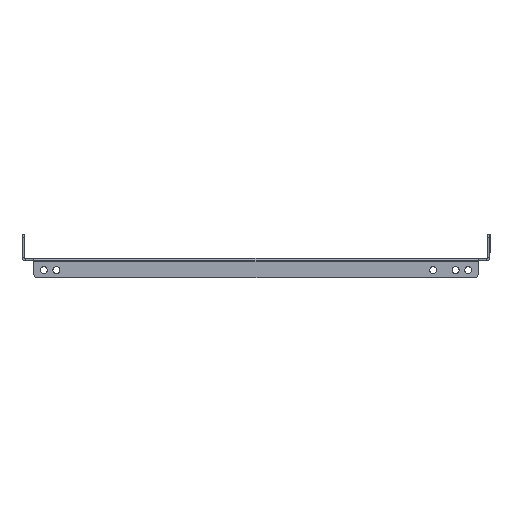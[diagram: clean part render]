
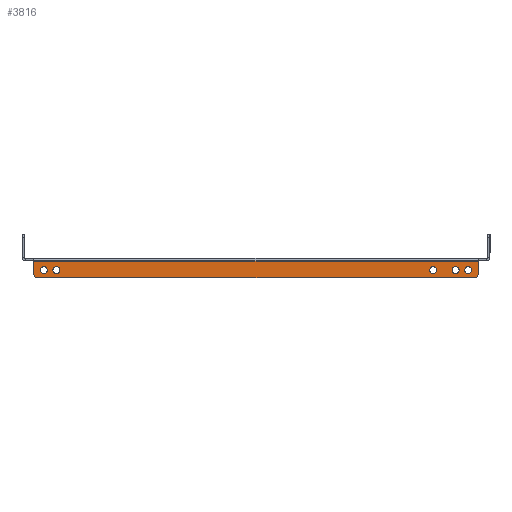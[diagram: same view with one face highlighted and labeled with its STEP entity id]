
A CAD part, left-side view. The second image highlights one B-rep face of the part: STEP entity #3816.
In plain terms, the highlighted planar face has unit normal (-1, 0, 0).
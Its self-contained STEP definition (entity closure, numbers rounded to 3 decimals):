
#5 = EDGE_CURVE ( 'NONE', #3567, #2444, #2221, .T. ) ;
#46 = AXIS2_PLACEMENT_3D ( 'NONE', #1285, #1673, #3073 ) ;
#64 = VERTEX_POINT ( 'NONE', #3699 ) ;
#90 = DIRECTION ( 'NONE',  ( 0., 0., 1. ) ) ;
#132 = VERTEX_POINT ( 'NONE', #1322 ) ;
#201 = EDGE_CURVE ( 'NONE', #1371, #554, #1958, .T. ) ;
#211 = ORIENTED_EDGE ( 'NONE', *, *, #3827, .F. ) ;
#219 = ORIENTED_EDGE ( 'NONE', *, *, #4158, .F. ) ;
#225 = EDGE_CURVE ( 'NONE', #3567, #3324, #3522, .T. ) ;
#230 = ORIENTED_EDGE ( 'NONE', *, *, #2777, .T. ) ;
#292 = FACE_BOUND ( 'NONE', #2271, .T. ) ;
#315 = FACE_BOUND ( 'NONE', #3948, .T. ) ;
#354 = DIRECTION ( 'NONE',  ( 0., 0., 1. ) ) ;
#357 = DIRECTION ( 'NONE',  ( 0., 0., -1. ) ) ;
#359 = ORIENTED_EDGE ( 'NONE', *, *, #3612, .F. ) ;
#380 = CARTESIAN_POINT ( 'NONE',  ( -550., 200., -6. ) ) ;
#382 = ORIENTED_EDGE ( 'NONE', *, *, #1362, .F. ) ;
#392 = CIRCLE ( 'NONE', #2623, 3. ) ;
#451 = CARTESIAN_POINT ( 'NONE',  ( -550., -200., -6. ) ) ;
#463 = VERTEX_POINT ( 'NONE', #1010 ) ;
#554 = VERTEX_POINT ( 'NONE', #451 ) ;
#556 = CARTESIAN_POINT ( 'NONE',  ( -550., -222.5, -14. ) ) ;
#576 = CARTESIAN_POINT ( 'NONE',  ( -550., -212.5, -13. ) ) ;
#590 = CIRCLE ( 'NONE', #1166, 3.5 ) ;
#598 = CARTESIAN_POINT ( 'NONE',  ( -550., 212.5, -6. ) ) ;
#602 = CARTESIAN_POINT ( 'NONE',  ( -550., 222.5, 0. ) ) ;
#616 = AXIS2_PLACEMENT_3D ( 'NONE', #602, #3095, #1381 ) ;
#634 = CARTESIAN_POINT ( 'NONE',  ( -550., 219.5, -14. ) ) ;
#686 = EDGE_CURVE ( 'NONE', #463, #3684, #4099, .T. ) ;
#687 = LINE ( 'NONE', #2104, #4427 ) ;
#696 = DIRECTION ( 'NONE',  ( 1., 0., 0. ) ) ;
#728 = DIRECTION ( 'NONE',  ( 0., 0., -1. ) ) ;
#776 = CARTESIAN_POINT ( 'NONE',  ( -550., -200., -9.5 ) ) ;
#841 = EDGE_CURVE ( 'NONE', #132, #3324, #687, .T. ) ;
#856 = ORIENTED_EDGE ( 'NONE', *, *, #225, .T. ) ;
#913 = CARTESIAN_POINT ( 'NONE',  ( -550., 219.5, -17. ) ) ;
#959 = DIRECTION ( 'NONE',  ( 0., 0., 1. ) ) ;
#966 = CIRCLE ( 'NONE', #1395, 3. ) ;
#973 = AXIS2_PLACEMENT_3D ( 'NONE', #3370, #2741, #1655 ) ;
#977 = AXIS2_PLACEMENT_3D ( 'NONE', #2365, #3803, #3406 ) ;
#978 = CARTESIAN_POINT ( 'NONE',  ( -550., -177.5, -13. ) ) ;
#988 = EDGE_CURVE ( 'NONE', #3067, #64, #3043, .T. ) ;
#998 = CARTESIAN_POINT ( 'NONE',  ( -550., 222.5, -17. ) ) ;
#1010 = CARTESIAN_POINT ( 'NONE',  ( -550., -219.5, -17. ) ) ;
#1116 = ORIENTED_EDGE ( 'NONE', *, *, #5, .F. ) ;
#1166 = AXIS2_PLACEMENT_3D ( 'NONE', #3866, #2124, #728 ) ;
#1177 = CIRCLE ( 'NONE', #3721, 3.5 ) ;
#1179 = ORIENTED_EDGE ( 'NONE', *, *, #2070, .T. ) ;
#1197 = ORIENTED_EDGE ( 'NONE', *, *, #686, .F. ) ;
#1236 = VECTOR ( 'NONE', #2313, 1000. ) ;
#1274 = CARTESIAN_POINT ( 'NONE',  ( -550., -177.5, -6. ) ) ;
#1285 = CARTESIAN_POINT ( 'NONE',  ( -550., 200., -9.5 ) ) ;
#1322 = CARTESIAN_POINT ( 'NONE',  ( -550., 222.5, -14. ) ) ;
#1336 = DIRECTION ( 'NONE',  ( 0., 0., -1. ) ) ;
#1358 = ORIENTED_EDGE ( 'NONE', *, *, #988, .F. ) ;
#1362 = EDGE_CURVE ( 'NONE', #2114, #4021, #590, .T. ) ;
#1371 = VERTEX_POINT ( 'NONE', #4277 ) ;
#1381 = DIRECTION ( 'NONE',  ( 0., 0., 1. ) ) ;
#1395 = AXIS2_PLACEMENT_3D ( 'NONE', #634, #3837, #90 ) ;
#1442 = ORIENTED_EDGE ( 'NONE', *, *, #1979, .T. ) ;
#1470 = DIRECTION ( 'NONE',  ( 0., 0., -1. ) ) ;
#1471 = CARTESIAN_POINT ( 'NONE',  ( -550., 212.5, -9.5 ) ) ;
#1495 = CARTESIAN_POINT ( 'NONE',  ( -550., -177.5, -9.5 ) ) ;
#1655 = DIRECTION ( 'NONE',  ( 0., 0., -1. ) ) ;
#1665 = VECTOR ( 'NONE', #1470, 1000. ) ;
#1673 = DIRECTION ( 'NONE',  ( -1., 0., 0. ) ) ;
#1682 = ORIENTED_EDGE ( 'NONE', *, *, #4203, .F. ) ;
#1741 = CARTESIAN_POINT ( 'NONE',  ( -550., -177.5, -9.5 ) ) ;
#1800 = CARTESIAN_POINT ( 'NONE',  ( -550., -222.5, -17. ) ) ;
#1958 = CIRCLE ( 'NONE', #3940, 3.5 ) ;
#1979 = EDGE_CURVE ( 'NONE', #463, #2444, #392, .T. ) ;
#1984 = CIRCLE ( 'NONE', #46, 3.5 ) ;
#2026 = VERTEX_POINT ( 'NONE', #1274 ) ;
#2053 = AXIS2_PLACEMENT_3D ( 'NONE', #3459, #2453, #354 ) ;
#2063 = CARTESIAN_POINT ( 'NONE',  ( -550., 200., -13. ) ) ;
#2070 = EDGE_CURVE ( 'NONE', #4161, #2026, #1177, .T. ) ;
#2104 = CARTESIAN_POINT ( 'NONE',  ( -550., 222.5, 0. ) ) ;
#2114 = VERTEX_POINT ( 'NONE', #3461 ) ;
#2124 = DIRECTION ( 'NONE',  ( -1., 0., 0. ) ) ;
#2138 = DIRECTION ( 'NONE',  ( -1., 0., 0. ) ) ;
#2145 = CARTESIAN_POINT ( 'NONE',  ( -550., 222.5, -0.6 ) ) ;
#2150 = CARTESIAN_POINT ( 'NONE',  ( -550., -222.5, -0.6 ) ) ;
#2204 = DIRECTION ( 'NONE',  ( 0., 0., -1. ) ) ;
#2215 = CIRCLE ( 'NONE', #977, 3.5 ) ;
#2219 = DIRECTION ( 'NONE',  ( -1., 0., 0. ) ) ;
#2221 = LINE ( 'NONE', #1800, #1665 ) ;
#2271 = EDGE_LOOP ( 'NONE', ( #219, #1682 ) ) ;
#2300 = DIRECTION ( 'NONE',  ( -1., 0., 0. ) ) ;
#2313 = DIRECTION ( 'NONE',  ( 0., 1., 0. ) ) ;
#2365 = CARTESIAN_POINT ( 'NONE',  ( -550., 200., -9.5 ) ) ;
#2370 = PLANE ( 'NONE',  #616 ) ;
#2406 = DIRECTION ( 'NONE',  ( 0., 0., 1. ) ) ;
#2444 = VERTEX_POINT ( 'NONE', #556 ) ;
#2448 = EDGE_LOOP ( 'NONE', ( #359, #3582 ) ) ;
#2453 = DIRECTION ( 'NONE',  ( -1., 0., 0. ) ) ;
#2475 = CARTESIAN_POINT ( 'NONE',  ( -550., -200., -9.5 ) ) ;
#2478 = EDGE_LOOP ( 'NONE', ( #1197, #1442, #1116, #856, #2526, #230 ) ) ;
#2526 = ORIENTED_EDGE ( 'NONE', *, *, #841, .F. ) ;
#2552 = VERTEX_POINT ( 'NONE', #2063 ) ;
#2596 = EDGE_LOOP ( 'NONE', ( #1358, #3729 ) ) ;
#2623 = AXIS2_PLACEMENT_3D ( 'NONE', #4337, #2300, #959 ) ;
#2705 = CIRCLE ( 'NONE', #2988, 3.5 ) ;
#2741 = DIRECTION ( 'NONE',  ( -1., 0., 0. ) ) ;
#2777 = EDGE_CURVE ( 'NONE', #132, #3684, #966, .T. ) ;
#2988 = AXIS2_PLACEMENT_3D ( 'NONE', #2475, #2138, #357 ) ;
#3043 = CIRCLE ( 'NONE', #4077, 3.5 ) ;
#3056 = CIRCLE ( 'NONE', #2053, 3.5 ) ;
#3058 = FACE_OUTER_BOUND ( 'NONE', #2478, .T. ) ;
#3067 = VERTEX_POINT ( 'NONE', #598 ) ;
#3073 = DIRECTION ( 'NONE',  ( 0., 0., 1. ) ) ;
#3095 = DIRECTION ( 'NONE',  ( -1., 0., 0. ) ) ;
#3194 = VECTOR ( 'NONE', #3614, 1000. ) ;
#3257 = DIRECTION ( 'NONE',  ( 0., 0., -1. ) ) ;
#3266 = DIRECTION ( 'NONE',  ( 1., 0., 0. ) ) ;
#3301 = EDGE_CURVE ( 'NONE', #64, #3067, #3056, .T. ) ;
#3321 = EDGE_CURVE ( 'NONE', #2026, #4161, #3959, .T. ) ;
#3324 = VERTEX_POINT ( 'NONE', #3552 ) ;
#3370 = CARTESIAN_POINT ( 'NONE',  ( -550., -212.5, -9.5 ) ) ;
#3406 = DIRECTION ( 'NONE',  ( 0., 0., 1. ) ) ;
#3459 = CARTESIAN_POINT ( 'NONE',  ( -550., 212.5, -9.5 ) ) ;
#3461 = CARTESIAN_POINT ( 'NONE',  ( -550., -212.5, -6. ) ) ;
#3463 = FACE_BOUND ( 'NONE', #2596, .T. ) ;
#3522 = LINE ( 'NONE', #2145, #3194 ) ;
#3552 = CARTESIAN_POINT ( 'NONE',  ( -550., 222.5, -0.6 ) ) ;
#3567 = VERTEX_POINT ( 'NONE', #2150 ) ;
#3582 = ORIENTED_EDGE ( 'NONE', *, *, #201, .F. ) ;
#3612 = EDGE_CURVE ( 'NONE', #554, #1371, #2705, .T. ) ;
#3614 = DIRECTION ( 'NONE',  ( 0., 1., 0. ) ) ;
#3648 = ORIENTED_EDGE ( 'NONE', *, *, #3321, .T. ) ;
#3661 = AXIS2_PLACEMENT_3D ( 'NONE', #1495, #3266, #2204 ) ;
#3684 = VERTEX_POINT ( 'NONE', #913 ) ;
#3699 = CARTESIAN_POINT ( 'NONE',  ( -550., 212.5, -13. ) ) ;
#3721 = AXIS2_PLACEMENT_3D ( 'NONE', #1741, #696, #1336 ) ;
#3729 = ORIENTED_EDGE ( 'NONE', *, *, #3301, .F. ) ;
#3803 = DIRECTION ( 'NONE',  ( -1., 0., 0. ) ) ;
#3816 = ADVANCED_FACE ( 'NONE', ( #315, #4470, #4108, #292, #3463, #3058 ), #2370, .T. ) ;
#3827 = EDGE_CURVE ( 'NONE', #4021, #2114, #4102, .T. ) ;
#3837 = DIRECTION ( 'NONE',  ( -1., 0., 0. ) ) ;
#3866 = CARTESIAN_POINT ( 'NONE',  ( -550., -212.5, -9.5 ) ) ;
#3940 = AXIS2_PLACEMENT_3D ( 'NONE', #776, #2219, #3257 ) ;
#3948 = EDGE_LOOP ( 'NONE', ( #1179, #3648 ) ) ;
#3959 = CIRCLE ( 'NONE', #3661, 3.5 ) ;
#3962 = DIRECTION ( 'NONE',  ( 0., 0., 1. ) ) ;
#3967 = VERTEX_POINT ( 'NONE', #380 ) ;
#4021 = VERTEX_POINT ( 'NONE', #576 ) ;
#4077 = AXIS2_PLACEMENT_3D ( 'NONE', #1471, #4306, #3962 ) ;
#4099 = LINE ( 'NONE', #998, #1236 ) ;
#4102 = CIRCLE ( 'NONE', #973, 3.5 ) ;
#4108 = FACE_BOUND ( 'NONE', #2448, .T. ) ;
#4158 = EDGE_CURVE ( 'NONE', #3967, #2552, #2215, .T. ) ;
#4161 = VERTEX_POINT ( 'NONE', #978 ) ;
#4203 = EDGE_CURVE ( 'NONE', #2552, #3967, #1984, .T. ) ;
#4277 = CARTESIAN_POINT ( 'NONE',  ( -550., -200., -13. ) ) ;
#4305 = EDGE_LOOP ( 'NONE', ( #382, #211 ) ) ;
#4306 = DIRECTION ( 'NONE',  ( -1., 0., 0. ) ) ;
#4337 = CARTESIAN_POINT ( 'NONE',  ( -550., -219.5, -14. ) ) ;
#4427 = VECTOR ( 'NONE', #2406, 1000. ) ;
#4470 = FACE_BOUND ( 'NONE', #4305, .T. ) ;
